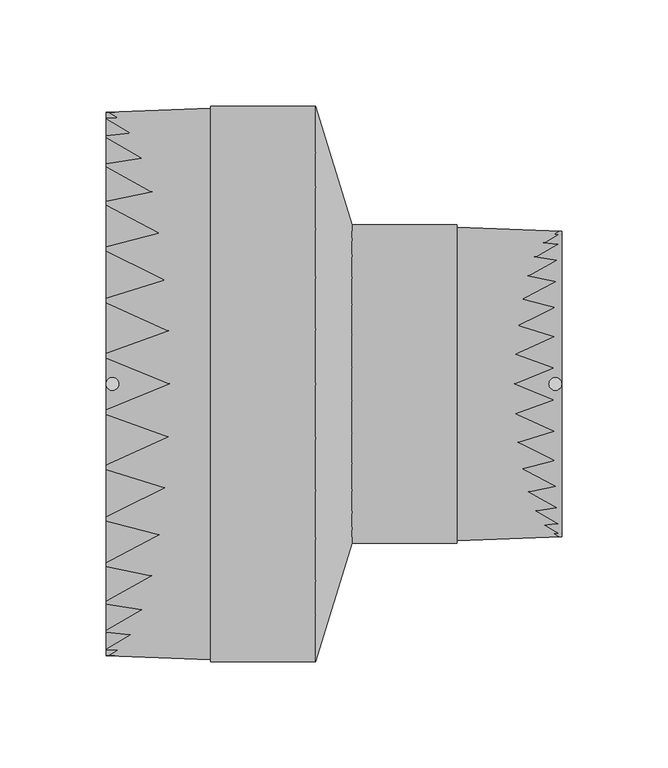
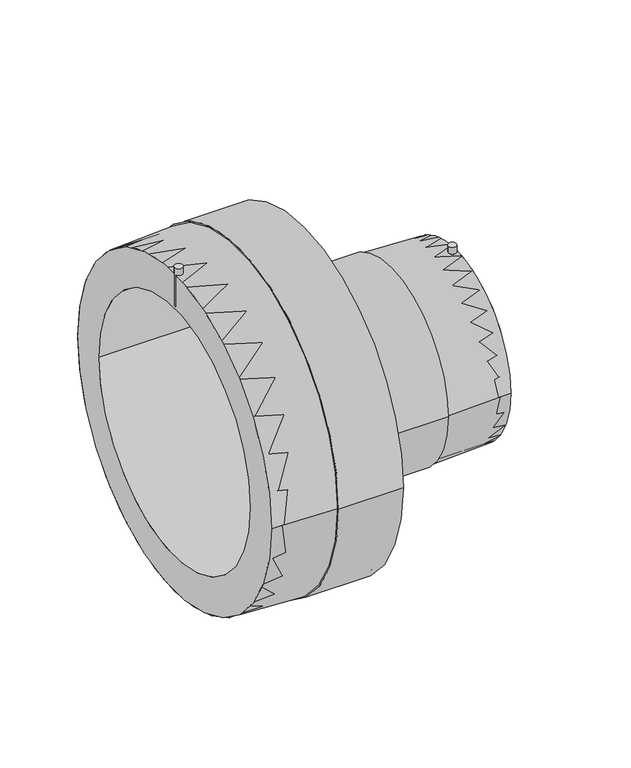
"""IFC4 building model written with IfcOpenShell, lengths in millimetres: pipe fitting geometry, EGB_VASEN_ PPR_Manguito reductor electrosoldable WXRD110 : Manguito reductor electrosoldable WXRD110."""

import ifcopenshell
import ifcopenshell.guid

model = None  # the IFC model being written
_history = None  # IfcOwnerHistory: only IFC2X3 demands one
_inside = {}  # id of a spatial element -> (the spatial element, [elements in it])
_under = {}  # id of a project, library or spatial element -> (it, [spatial elements below it])
_declared = {}  # id of a project -> (the project, [libraries it declares])
_typed = {}  # id of a type object -> (the type object, [elements of that type])
_made_of = {}  # id of a material, layer set ... -> (it, [elements and type objects made of it])


def new_model(schema):
    """Start an empty IFC model of exactly this schema.

    Asked for "IFC4X3", IfcOpenShell would pick the latest addendum, in which some entities
    have other attributes; the version numbers below select the first issue.
    IFC2X3 requires an IfcOwnerHistory on every rooted entity: one is made here for all.
    """
    global model, _history
    if schema == "IFC4X3":
        model = ifcopenshell.file(schema_version=(4, 3, 0, 0))
    else:
        model = ifcopenshell.file(schema=schema)
    _inside.clear()
    _under.clear()
    _declared.clear()
    _typed.clear()
    _made_of.clear()
    _history = None
    if model.schema == "IFC2X3":
        org = make("IfcOrganization", Name="unknown")
        user = make(
            "IfcPersonAndOrganization",
            ThePerson=make("IfcPerson", FamilyName="unknown"),
            TheOrganization=org,
        )
        app = make(
            "IfcApplication",
            ApplicationDeveloper=org,
            Version="unknown",
            ApplicationFullName="unknown",
            ApplicationIdentifier="unknown",
        )
        _history = make(
            "IfcOwnerHistory",
            OwningUser=user,
            OwningApplication=app,
            ChangeAction="ADDED",
            CreationDate=0,
        )
    return model


def make(cls, **values):
    """One entity of the class cls with the attributes given. An attribute that is None is left unset."""
    return model.create_entity(
        cls, **{name: value for name, value in values.items() if value is not None}
    )


def rooted(cls, **values):
    """An entity with a GlobalId (a new one), such as an element, a storey or a relation."""
    return make(cls, GlobalId=ifcopenshell.guid.new(), OwnerHistory=_history, **values)


def si_unit(unit_type, name, prefix=None):
    """IfcSIUnit, for example si_unit("LENGTHUNIT", "METRE", prefix="MILLI")."""
    return make("IfcSIUnit", UnitType=unit_type, Prefix=prefix, Name=name)


def assignment(units):
    """IfcUnitAssignment: the units of a project."""
    return None if units is None else make("IfcUnitAssignment", Units=units)


def point(xyz):
    """IfcCartesianPoint."""
    return None if xyz is None else make("IfcCartesianPoint", Coordinates=xyz)


def direction(xyz):
    """IfcDirection."""
    return None if xyz is None else make("IfcDirection", DirectionRatios=xyz)


def frame(location, z_axis=None, x_axis=None):
    """IfcAxis2Placement3D, a coordinate frame: its origin and axes. An axis left out is left unset."""
    return make(
        "IfcAxis2Placement3D",
        Location=point(location),
        Axis=direction(z_axis),
        RefDirection=direction(x_axis),
    )


def frame_2d(location, x_axis=None):
    """IfcAxis2Placement2D, a coordinate frame in the plane: its origin and x axis."""
    return make(
        "IfcAxis2Placement2D", Location=point(location), RefDirection=direction(x_axis)
    )


def origin():
    """The frame at (0, 0, 0) with its axes left unset."""
    return frame((0.0, 0.0, 0.0))


def origin_2d():
    """The frame at (0, 0) in the plane with its x axis left unset."""
    return frame_2d((0.0, 0.0))


def place(relative_to, where):
    """IfcLocalPlacement: puts the frame where relative to a parent placement (None: the world)."""
    return make(
        "IfcLocalPlacement", PlacementRelTo=relative_to, RelativePlacement=where
    )


def context(
    kind, dimensions, precision=None, world=None, true_north=None, identifier=None
):
    """IfcGeometricRepresentationContext, for example the 3D "Model" context."""
    return make(
        "IfcGeometricRepresentationContext",
        ContextIdentifier=identifier,
        ContextType=kind,
        CoordinateSpaceDimension=dimensions,
        Precision=precision,
        WorldCoordinateSystem=world,
        TrueNorth=true_north,
    )


def project(units=None, contexts=None):
    """IfcProject with its units and contexts."""
    return rooted(
        "IfcProject",
        Name="project",
        RepresentationContexts=contexts,
        UnitsInContext=assignment(units),
    )


def spatial(cls, under=None, at=None, **own):
    """A site, building, storey or space (cls), placed at a placement, below another one or the project."""
    s = rooted(cls, ObjectPlacement=at, **own)
    if under is not None:
        _under.setdefault(under.id(), (under, []))[1].append(s)
    return s


def polyline(points):
    """IfcPolyline through the points."""
    return make("IfcPolyline", Points=[point(p) for p in points])


def circle_curve(where, radius):
    """IfcCircle in the frame where."""
    return make("IfcCircle", Position=where, Radius=radius)


def trimmed(basis, trim1, trim2, sense, master):
    """IfcTrimmedCurve: the piece of a basis curve between two trims."""
    return make(
        "IfcTrimmedCurve",
        BasisCurve=basis,
        Trim1=trim1,
        Trim2=trim2,
        SenseAgreement=sense,
        MasterRepresentation=master,
    )


def segment(curve, same_sense, transition):
    """IfcCompositeCurveSegment."""
    return make(
        "IfcCompositeCurveSegment",
        Transition=transition,
        SameSense=same_sense,
        ParentCurve=curve,
    )


def composite_curve(segments, self_intersect=None):
    """IfcCompositeCurve: segments joined end to end."""
    return make("IfcCompositeCurve", Segments=segments, SelfIntersect=self_intersect)


def outline(outer, holes=None, kind="AREA"):
    """IfcArbitraryClosedProfileDef: a profile drawn as a closed curve; with holes, ...WithVoids."""
    if holes is None:
        return make("IfcArbitraryClosedProfileDef", ProfileType=kind, OuterCurve=outer)
    return make(
        "IfcArbitraryProfileDefWithVoids",
        ProfileType=kind,
        OuterCurve=outer,
        InnerCurves=holes,
    )


def extrude(swept, where, along, depth):
    """IfcExtrudedAreaSolid: the profile swept, set in the frame where, extruded along a direction by depth."""
    return make(
        "IfcExtrudedAreaSolid",
        SweptArea=swept,
        Position=where,
        ExtrudedDirection=direction(along),
        Depth=depth,
    )


def shape(context_of_items, identifier, shape_type, items):
    """IfcShapeRepresentation: the items that make up one representation, for example the "Body"."""
    return make(
        "IfcShapeRepresentation",
        ContextOfItems=context_of_items,
        RepresentationIdentifier=identifier,
        RepresentationType=shape_type,
        Items=items,
    )


def source(mapping_origin, context_of_items, identifier, shape_type, items):
    """IfcRepresentationMap: a shape defined once, which mapped items show again and again."""
    return make(
        "IfcRepresentationMap",
        MappingOrigin=mapping_origin,
        MappedRepresentation=shape(context_of_items, identifier, shape_type, items),
    )


def transform(
    local_origin,
    x_axis=None,
    y_axis=None,
    z_axis=None,
    scale=None,
    scale2=None,
    scale3=None,
    uniform=True,
):
    """IfcCartesianTransformationOperator3D, or its non-uniform kind. x_axis, y_axis, z_axis: its Axis1, 2, 3."""
    if uniform:
        return make(
            "IfcCartesianTransformationOperator3D",
            Axis1=direction(x_axis),
            Axis2=direction(y_axis),
            LocalOrigin=point(local_origin),
            Scale=scale,
            Axis3=direction(z_axis),
        )
    return make(
        "IfcCartesianTransformationOperator3DnonUniform",
        Axis1=direction(x_axis),
        Axis2=direction(y_axis),
        LocalOrigin=point(local_origin),
        Scale=scale,
        Axis3=direction(z_axis),
        Scale2=scale2,
        Scale3=scale3,
    )


def mapped(mapping_source, mapping_target):
    """IfcMappedItem: shows the shape of a source again, moved by a transform."""
    return make(
        "IfcMappedItem", MappingSource=mapping_source, MappingTarget=mapping_target
    )


def made_of(thing, what):
    """Note that an element or type object is made of a material, layer set ...; save() writes the relation."""
    if what is not None:
        _made_of.setdefault(what.id(), (what, []))[1].append(thing)
    return thing


def element(
    cls,
    number,
    at=None,
    inside=None,
    cuts=None,
    type_object=None,
    material=None,
    context=None,
    identifier="Body",
    shape_type=None,
    held_by="IfcProductDefinitionShape",
    body=None,
    shapes=None,
    **own,
):
    """One element of the class cls, such as IfcWall. Its Tag is "e" and its number.

    at: its placement. inside: the storey or other place that contains it. cuts: it is an
    opening in that element (IfcRelVoidsElement). A single representation is given by context,
    identifier, shape_type and body (its items); several are given by shapes. held_by: the class
    of the entity that holds the representations. save() writes the other relations.
    """
    e = rooted(cls, Tag="e%d" % number, ObjectPlacement=at, **own)
    if body is not None:
        shapes = [shape(context, identifier, shape_type, body)]
    if shapes is not None:
        e.Representation = make(held_by, Representations=shapes)
    if inside is not None:
        _inside.setdefault(inside.id(), (inside, []))[1].append(e)
    if cuts is not None:
        rooted(
            "IfcRelVoidsElement", RelatingBuildingElement=cuts, RelatedOpeningElement=e
        )
    if type_object is not None:
        _typed.setdefault(type_object.id(), (type_object, []))[1].append(e)
    return made_of(e, material)


def aggregate(whole, parts):
    """IfcRelAggregates: a whole, such as a stair, and the parts it consists of."""
    return rooted("IfcRelAggregates", RelatingObject=whole, RelatedObjects=parts)


def save(model, path):
    """Write the relations noted so far, then the file.

    IfcRelAggregates (storeys below a building ...), IfcRelContainedInSpatialStructure (elements
    in a storey), IfcRelDefinesByType, IfcRelAssociatesMaterial and IfcRelDeclares: one each for
    every whole, place, type object, material and project.
    """
    for whole, parts in _under.values():
        aggregate(whole, parts)
    for where, things in _inside.values():
        rooted(
            "IfcRelContainedInSpatialStructure",
            RelatedElements=things,
            RelatingStructure=where,
        )
    for kind, things in _typed.values():
        rooted("IfcRelDefinesByType", RelatedObjects=things, RelatingType=kind)
    for what, things in _made_of.values():
        rooted("IfcRelAssociatesMaterial", RelatedObjects=things, RelatingMaterial=what)
    for by, libraries in _declared.values():
        rooted("IfcRelDeclares", RelatingContext=by, RelatedDefinitions=libraries)
    model.write(path)


def plane_surface(at):
    """IfcPlane: the flat surface through the origin of the frame at, square to its z axis."""
    return make("IfcPlane", Position=at)


def cylinder_surface(at, radius):
    """IfcCylindricalSurface: all points at the distance radius from the z axis of the frame at."""
    return make("IfcCylindricalSurface", Position=at, Radius=radius)


def revolved_surface(curve, axis_point, axis_direction):
    """IfcSurfaceOfRevolution: the curve turned about the line through axis_point along axis_direction."""
    return make(
        "IfcSurfaceOfRevolution",
        SweptCurve=make("IfcArbitraryOpenProfileDef", ProfileType="CURVE", Curve=curve),
        AxisPosition=make("IfcAxis1Placement", Location=point(axis_point), Axis=direction(axis_direction)),
    )


def advanced_brep(points, edges, surfaces, faces):
    """IfcAdvancedBrep: a solid bounded by faces that lie on surfaces and meet in shared edges.

    An edge is (start, end): straight between two places in points (the first is 0);
    or (start, end, curve); or (start, end, curve, False) where it runs against its curve.
    A face is (place in surfaces, loops), or (place, loops, False) where it looks against
    its surface's normal. A loop lists edges by number (the first is 1), with a minus sign
    where the edge is run from its end to its start. The first loop is the outer one.
    """
    corners = [point(p) for p in points]
    vertices = [make("IfcVertexPoint", VertexGeometry=c) for c in corners]
    made = []
    for start, end, *more in edges:
        made.append(
            make(
                "IfcEdgeCurve",
                EdgeStart=vertices[start],
                EdgeEnd=vertices[end],
                EdgeGeometry=more[0] if more else make("IfcPolyline", Points=[corners[start], corners[end]]),
                SameSense=more[1] if len(more) > 1 else True,
            )
        )
    hull = []
    for where, loops, *sense in faces:
        bounds = []
        for j, loop in enumerate(loops):
            ring = [make("IfcOrientedEdge", EdgeElement=made[abs(k) - 1], Orientation=k > 0) for k in loop]
            bounds.append(
                make(
                    "IfcFaceOuterBound" if j == 0 else "IfcFaceBound",
                    Bound=make("IfcEdgeLoop", EdgeList=ring),
                    Orientation=True,
                )
            )
        hull.append(make("IfcAdvancedFace", Bounds=bounds, FaceSurface=surfaces[where], SameSense=sense[0] if sense else True))
    return make("IfcAdvancedBrep", Outer=make("IfcClosedShell", CfsFaces=hull))


def pipe_fitting_617e2145(model_context):
    return source(origin(), model_context, "Body", "SolidModel", [
        extrude(outline(composite_curve([segment(trimmed(circle_curve(frame_2d((104.5, 0.0)), 3.0), [point((101.5, 0.0))], [point((107.5, 0.0))], False, "CARTESIAN"), True, "CONTINUOUS"), segment(trimmed(circle_curve(frame_2d((104.5, 0.0)), 3.0), [point((107.5, 0.0))], [point((101.5, 0.0))], False, "CARTESIAN"), True, "CONTINUOUS")], self_intersect=False)), frame((0.0, 0.0, 57.0), z_axis=(0.0, 0.0, 1.0), x_axis=(1.0, 0.0, 0.0)), (0.0, 0.0, 1.0), 20.0),
        extrude(outline(composite_curve([segment(trimmed(circle_curve(frame_2d((-104.5, 0.0)), 3.0), [point((-107.5, 0.0))], [point((-101.5, 0.0))], False, "CARTESIAN"), True, "CONTINUOUS"), segment(trimmed(circle_curve(frame_2d((-104.5, 0.0)), 3.0), [point((-101.5, 0.0))], [point((-107.5, 0.0))], False, "CARTESIAN"), True, "CONTINUOUS")], self_intersect=False)), frame((0.0, 0.0, 102.0), z_axis=(0.0, 0.0, 1.0), x_axis=(1.0, 0.0, 0.0)), (0.0, 0.0, 1.0), 31.0),
        extrude(outline(composite_curve([segment(trimmed(circle_curve(origin_2d(), 72.0), [point((-72.0, 0.0))], [point((72.0, 0.0))], False, "CARTESIAN"), True, "CONTINUOUS"), segment(trimmed(circle_curve(origin_2d(), 72.0), [point((72.0, 0.0))], [point((-72.0, 0.0))], False, "CARTESIAN"), True, "CONTINUOUS")], self_intersect=False), holes=[composite_curve([segment(trimmed(circle_curve(origin_2d(), 55.0), [point((-55.0, 0.0))], [point((55.0, 0.0))], True, "CARTESIAN"), True, "CONTINUOUS"), segment(trimmed(circle_curve(origin_2d(), 55.0), [point((55.0, 0.0))], [point((-55.0, 0.0))], True, "CARTESIAN"), True, "CONTINUOUS")], self_intersect=False)]), frame((8.6, 0.0, 0.0), z_axis=(1.0, 0.0, 0.0), x_axis=(0.0, 1.0, 0.0)), (0.0, 0.0, 1.0), 98.9),
        extrude(outline(composite_curve([segment(trimmed(circle_curve(origin_2d(), 128.0), [point((-128.0, 0.0))], [point((128.0, 0.0))], False, "CARTESIAN"), True, "CONTINUOUS"), segment(trimmed(circle_curve(origin_2d(), 128.0), [point((128.0, 0.0))], [point((-128.0, 0.0))], False, "CARTESIAN"), True, "CONTINUOUS")], self_intersect=False), holes=[composite_curve([segment(trimmed(circle_curve(origin_2d(), 100.0), [point((-100.0, 0.0))], [point((100.0, 0.0))], True, "CARTESIAN"), True, "CONTINUOUS"), segment(trimmed(circle_curve(origin_2d(), 100.0), [point((100.0, 0.0))], [point((-100.0, 0.0))], True, "CARTESIAN"), True, "CONTINUOUS")], self_intersect=False)]), frame((-107.5, 0.0, 0.0), z_axis=(1.0, 0.0, 0.0), x_axis=(0.0, 1.0, 0.0)), (0.0, 0.0, 1.0), 98.9),
        advanced_brep(
        [(8.6, -72.0, 0.0), (8.6, 72.0, 0.0), (-8.6, -128.0, 0.0), (-8.6, 128.0, 0.0)],
        [
            (0, 1, circle_curve(frame((8.6, 0.0, 0.0), z_axis=(1.0, 0.0, 0.0), x_axis=(0.0, -1.0, 0.0)), 72.0)),
            (1, 0, circle_curve(frame((8.6, 0.0, 0.0), z_axis=(1.0, 0.0, 0.0), x_axis=(0.0, 1.0, 0.0)), 72.0)),
            (2, 3, circle_curve(frame((-8.6, 0.0, 0.0), z_axis=(-1.0, 0.0, 0.0), x_axis=(0.0, 1.0, 0.0)), 128.0)),
            (3, 2, circle_curve(frame((-8.6, 0.0, 0.0), z_axis=(-1.0, 0.0, 0.0), x_axis=(0.0, -1.0, 0.0)), 128.0)),
            (3, 1),
            (0, 2),
        ],
        [
            plane_surface(frame((8.6, 0.0, 0.0), z_axis=(1.0, 0.0, 0.0), x_axis=(0.0, 0.0, -1.0))),
            plane_surface(frame((-8.6, 0.0, 0.0), z_axis=(-1.0, 0.0, 0.0), x_axis=(0.0, 0.0, -1.0))),
            revolved_surface(polyline([(8.599999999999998, -71.99999997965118, 0.0), (-8.599999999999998, -128.0, 0.0)]), (30.7142857, 0.0, 0.0), (-1.0, 0.0, 0.0)),
            revolved_surface(polyline([(8.599999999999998, 71.99999997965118, 0.0), (-8.599999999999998, 128.0, 0.0)]), (30.7142857, 0.0, 0.0), (-1.0, 0.0, 0.0)),
        ],
        [
            (0, [[1, 2]]),
            (1, [[3, 4]]),
            (2, [[-4, 5, -1, 6]]),
            (3, [[-3, -6, -2, -5]]),
        ],
    ),
        advanced_brep(
        [(8.6, -72.0, 0.0), (8.6, 72.0, 0.0), (-8.6, 128.0, 0.0), (-8.6, -128.0, 0.0), (107.5, -72.0, 0.0), (107.5, 72.0, 0.0), (58.05, -74.0, 0.0), (58.05, 74.0, 0.0), (58.05, -75.0, 0.0), (58.05, 75.0, 0.0), (8.6, -75.0, 0.0), (8.6, 75.0, 0.0), (-8.6, -131.0, 0.0), (-8.6, 131.0, 0.0), (-58.05, -131.0, 0.0), (-58.05, 131.0, 0.0), (-58.05, -130.0, 0.0), (-58.05, 130.0, 0.0), (-107.5, -128.0, 0.0), (-107.5, 128.0, 0.0)],
        [
            (0, 1, circle_curve(frame((8.6, 0.0, 0.0), z_axis=(1.0, 0.0, 0.0), x_axis=(0.0, 1.0, 0.0)), 72.0)),
            (1, 2),
            (2, 3, circle_curve(frame((-8.6, 0.0, 0.0), z_axis=(-1.0, 0.0, 0.0), x_axis=(0.0, 1.0, 0.0)), 128.0)),
            (3, 0),
            (1, 0, circle_curve(frame((8.6, 0.0, 0.0), z_axis=(1.0, 0.0, 0.0), x_axis=(0.0, 1.0, 0.0)), 72.0)),
            (3, 2, circle_curve(frame((-8.6, 0.0, 0.0), z_axis=(-1.0, 0.0, 0.0), x_axis=(0.0, 1.0, 0.0)), 128.0)),
            (4, 5, circle_curve(frame((107.5, 0.0, 0.0), z_axis=(1.0, 0.0, 0.0), x_axis=(0.0, 1.0, 0.0)), 72.0)),
            (5, 1),
            (0, 4),
            (5, 4, circle_curve(frame((107.5, 0.0, 0.0), z_axis=(1.0, 0.0, 0.0), x_axis=(0.0, 1.0, 0.0)), 72.0)),
            (6, 7, circle_curve(frame((58.05, 0.0, 0.0), z_axis=(1.0, 0.0, 0.0), x_axis=(0.0, 1.0, 0.0)), 74.0)),
            (7, 5),
            (4, 6),
            (7, 6, circle_curve(frame((58.05, 0.0, 0.0), z_axis=(1.0, 0.0, 0.0), x_axis=(0.0, 1.0, 0.0)), 74.0)),
            (8, 9, circle_curve(frame((58.05, 0.0, 0.0), z_axis=(1.0, 0.0, 0.0), x_axis=(0.0, 1.0, 0.0)), 75.0)),
            (9, 7),
            (6, 8),
            (9, 8, circle_curve(frame((58.05, 0.0, 0.0), z_axis=(1.0, 0.0, 0.0), x_axis=(0.0, 1.0, 0.0)), 75.0)),
            (10, 11, circle_curve(frame((8.6, 0.0, 0.0), z_axis=(1.0, 0.0, 0.0), x_axis=(0.0, 1.0, 0.0)), 75.0)),
            (11, 9),
            (8, 10),
            (11, 10, circle_curve(frame((8.6, 0.0, 0.0), z_axis=(1.0, 0.0, 0.0), x_axis=(0.0, 1.0, 0.0)), 75.0)),
            (12, 13, circle_curve(frame((-8.6, 0.0, 0.0), z_axis=(1.0, 0.0, 0.0), x_axis=(0.0, 1.0, 0.0)), 131.0)),
            (13, 11),
            (10, 12),
            (13, 12, circle_curve(frame((-8.6, 0.0, 0.0), z_axis=(1.0, 0.0, 0.0), x_axis=(0.0, 1.0, 0.0)), 131.0)),
            (14, 15, circle_curve(frame((-58.05, 0.0, 0.0), z_axis=(1.0, 0.0, 0.0), x_axis=(0.0, 1.0, 0.0)), 131.0)),
            (15, 13),
            (12, 14),
            (15, 14, circle_curve(frame((-58.05, 0.0, 0.0), z_axis=(1.0, 0.0, 0.0), x_axis=(0.0, 1.0, 0.0)), 131.0)),
            (16, 17, circle_curve(frame((-58.05, 0.0, 0.0), z_axis=(1.0, 0.0, 0.0), x_axis=(0.0, 1.0, 0.0)), 130.0)),
            (17, 15),
            (14, 16),
            (17, 16, circle_curve(frame((-58.05, 0.0, 0.0), z_axis=(1.0, 0.0, 0.0), x_axis=(0.0, 1.0, 0.0)), 130.0)),
            (18, 19, circle_curve(frame((-107.5, 0.0, 0.0), z_axis=(1.0, 0.0, 0.0), x_axis=(0.0, 1.0, 0.0)), 128.0)),
            (19, 17),
            (16, 18),
            (19, 18, circle_curve(frame((-107.5, 0.0, 0.0), z_axis=(1.0, 0.0, 0.0), x_axis=(0.0, 1.0, 0.0)), 128.0)),
            (2, 19),
            (18, 3),
        ],
        [
            revolved_surface(polyline([(-8.6, 128.0, 0.0), (8.6, 72.0, 0.0)]), (-142.5, 0.0, 0.0), (-1.0, 0.0, 0.0)),
            revolved_surface(polyline([(8.599999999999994, 72.0, 0.0), (107.5, 72.0, 0.0)]), (-142.5, 0.0, 0.0), (-1.0, 0.0, 0.0)),
            revolved_surface(polyline([(107.5, 72.0, 0.0), (58.05, 74.0, 0.0)]), (-142.5, 0.0, 0.0), (-1.0, 0.0, 0.0)),
            plane_surface(frame((58.05, 0.0, 0.0), z_axis=(1.0, 0.0, 0.0), x_axis=(0.0, 1.0, 0.0))),
            cylinder_surface(frame((-142.5, 0.0, 0.0), z_axis=(-1.0, 0.0, 0.0), x_axis=(0.0, 1.0, 0.0)), 75.0),
            revolved_surface(polyline([(8.6, 75.0, 0.0), (-8.6, 131.0, 0.0)]), (-142.5, 0.0, 0.0), (-1.0, 0.0, 0.0)),
            cylinder_surface(frame((-142.5, 0.0, 0.0), z_axis=(-1.0, 0.0, 0.0), x_axis=(0.0, 1.0, 0.0)), 131.0),
            plane_surface(frame((-58.05, 0.0, 0.0), z_axis=(-1.0, 0.0, 0.0), x_axis=(0.0, 1.0, 0.0))),
            revolved_surface(polyline([(-58.05, 130.0, 0.0), (-107.5, 128.0, 0.0)]), (-142.5, 0.0, 0.0), (-1.0, 0.0, 0.0)),
            revolved_surface(polyline([(-107.5, 128.0, 0.0), (-8.599999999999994, 128.0, 0.0)]), (-142.5, 0.0, 0.0), (-1.0, 0.0, 0.0)),
        ],
        [
            (0, [[1, 2, 3, 4]]),
            (0, [[5, -4, 6, -2]]),
            (1, [[7, 8, -1, 9]]),
            (1, [[10, -9, -5, -8]]),
            (2, [[11, 12, -7, 13]]),
            (2, [[14, -13, -10, -12]]),
            (3, [[15, 16, -11, 17]]),
            (3, [[18, -17, -14, -16]]),
            (4, [[19, 20, -15, 21]]),
            (4, [[22, -21, -18, -20]]),
            (5, [[23, 24, -19, 25]]),
            (5, [[26, -25, -22, -24]]),
            (6, [[27, 28, -23, 29]]),
            (6, [[30, -29, -26, -28]]),
            (7, [[31, 32, -27, 33]]),
            (7, [[34, -33, -30, -32]]),
            (8, [[35, 36, -31, 37]]),
            (8, [[38, -37, -34, -36]]),
            (9, [[-3, 39, -35, 40]]),
            (9, [[-6, -40, -38, -39]]),
        ],
    ),
    ])


if __name__ == "__main__":
    model = new_model("IFC4")
    model_context = context("Model", 3, world=origin())
    ifc_project = project(units=[si_unit("LENGTHUNIT", "METRE", prefix="MILLI")], contexts=[model_context])
    site = spatial("IfcSite", under=ifc_project)
    building = spatial("IfcBuilding", under=site)
    placement = place(None, origin())
    pipe_fitting_shape = pipe_fitting_617e2145(model_context)
    element("IfcPipeFitting", 1, ObjectType="EGB_VASEN_ PPR_Manguito reductor electrosoldable WXRD110 : Manguito reductor electrosoldable WXRD110", at=placement, inside=building, context=model_context, shape_type="MappedRepresentation", body=[
        mapped(pipe_fitting_shape, transform((0.0, 0.0, 0.0), x_axis=(1.0, 0.0, 0.0), y_axis=(0.0, 1.0, 0.0), z_axis=(0.0, 0.0, 1.0))),
    ])
    save(model, "model.ifc")
